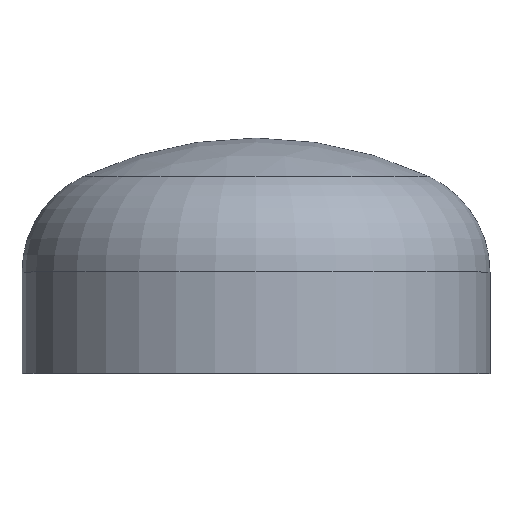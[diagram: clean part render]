
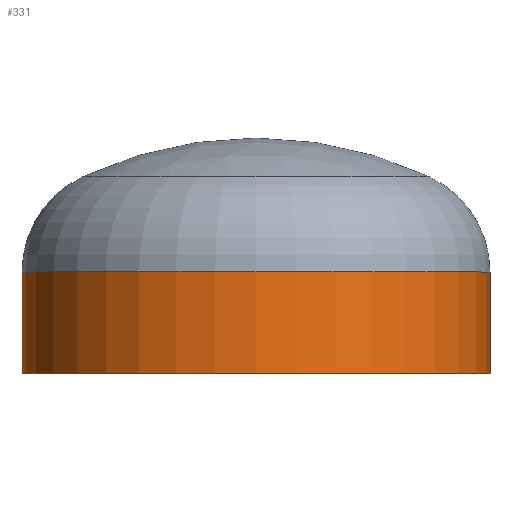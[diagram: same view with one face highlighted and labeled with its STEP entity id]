
A CAD part, top view. The second image highlights one B-rep face of the part: STEP entity #331.
In plain terms, the highlighted cylindrical face has radius 300 mm (diameter 600 mm), a partial arc.
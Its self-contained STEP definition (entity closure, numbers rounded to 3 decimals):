
#1 = AXIS2_PLACEMENT_3D ( 'NONE', #189, #178, #193 ) ;
#5 = VECTOR ( 'NONE', #387, 1000. ) ;
#12 = ORIENTED_EDGE ( 'NONE', *, *, #399, .T. ) ;
#35 = ORIENTED_EDGE ( 'NONE', *, *, #86, .T. ) ;
#42 = VERTEX_POINT ( 'NONE', #373 ) ;
#53 = ORIENTED_EDGE ( 'NONE', *, *, #392, .F. ) ;
#71 = VERTEX_POINT ( 'NONE', #233 ) ;
#72 = VERTEX_POINT ( 'NONE', #267 ) ;
#77 = AXIS2_PLACEMENT_3D ( 'NONE', #329, #327, #325 ) ;
#86 = EDGE_CURVE ( 'NONE', #42, #71, #372, .T. ) ;
#154 = VERTEX_POINT ( 'NONE', #278 ) ;
#158 = ORIENTED_EDGE ( 'NONE', *, *, #364, .F. ) ;
#167 = CARTESIAN_POINT ( 'NONE',  ( 0., 0., 0. ) ) ;
#172 = DIRECTION ( 'NONE',  ( 0., -1., 0. ) ) ;
#178 = DIRECTION ( 'NONE',  ( 0., -1., 0. ) ) ;
#189 = CARTESIAN_POINT ( 'NONE',  ( 0., 0., 0. ) ) ;
#193 = DIRECTION ( 'NONE',  ( 1., 0., 0. ) ) ;
#194 = CARTESIAN_POINT ( 'NONE',  ( 300., 0., 0. ) ) ;
#197 = EDGE_LOOP ( 'NONE', ( #35, #12, #158, #53 ) ) ;
#200 = FACE_OUTER_BOUND ( 'NONE', #197, .T. ) ;
#233 = CARTESIAN_POINT ( 'NONE',  ( -300., 130., 0. ) ) ;
#238 = LINE ( 'NONE', #368, #5 ) ;
#267 = CARTESIAN_POINT ( 'NONE',  ( 300., 0., 0. ) ) ;
#278 = CARTESIAN_POINT ( 'NONE',  ( -300., 0., 0. ) ) ;
#292 = VECTOR ( 'NONE', #363, 1000. ) ;
#305 = AXIS2_PLACEMENT_3D ( 'NONE', #167, #172, #344 ) ;
#325 = DIRECTION ( 'NONE',  ( 1., 0., 0. ) ) ;
#327 = DIRECTION ( 'NONE',  ( 0., -1., 0. ) ) ;
#329 = CARTESIAN_POINT ( 'NONE',  ( 0., 130., 0. ) ) ;
#331 = ADVANCED_FACE ( 'NONE', ( #200 ), #384, .T. ) ;
#344 = DIRECTION ( 'NONE',  ( 1., 0., 0. ) ) ;
#363 = DIRECTION ( 'NONE',  ( 0., -1., 0. ) ) ;
#364 = EDGE_CURVE ( 'NONE', #72, #154, #375, .T. ) ;
#368 = CARTESIAN_POINT ( 'NONE',  ( -300., 0., 0. ) ) ;
#370 = LINE ( 'NONE', #194, #292 ) ;
#372 = CIRCLE ( 'NONE', #77, 300. ) ;
#373 = CARTESIAN_POINT ( 'NONE',  ( 300., 130., 0. ) ) ;
#375 = CIRCLE ( 'NONE', #305, 300. ) ;
#384 = CYLINDRICAL_SURFACE ( 'NONE', #1, 300. ) ;
#387 = DIRECTION ( 'NONE',  ( 0., -1., 0. ) ) ;
#392 = EDGE_CURVE ( 'NONE', #42, #72, #370, .T. ) ;
#399 = EDGE_CURVE ( 'NONE', #71, #154, #238, .T. ) ;
